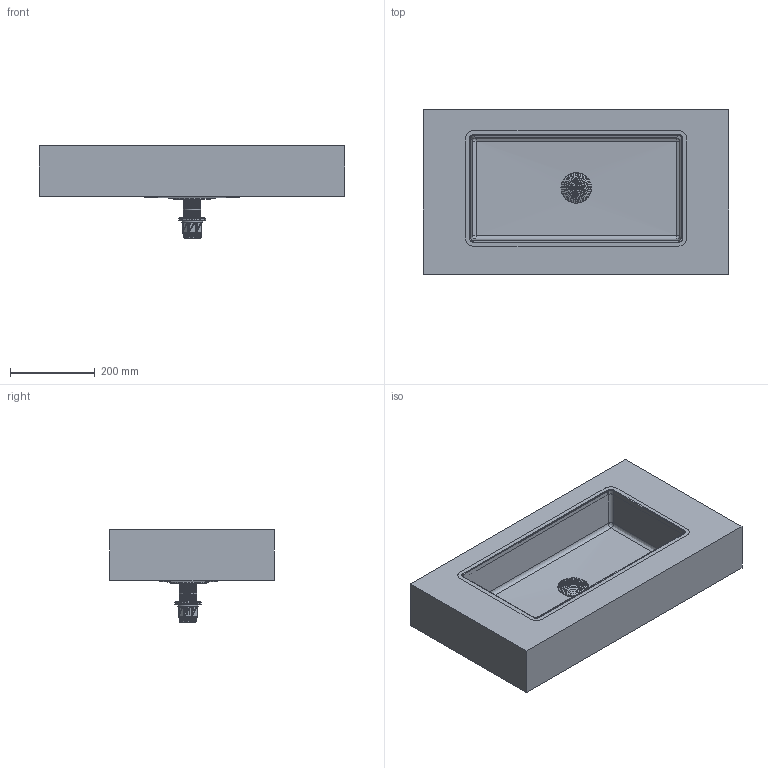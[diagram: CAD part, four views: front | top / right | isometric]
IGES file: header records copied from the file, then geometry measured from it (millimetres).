
Start section: Data from Parasolid IGES Translator 19.0.9, Copyright(c) 2006 Siemens PL M Software. All Rights Reserved.
Global section: file name: noorth-top-H 12 D 38,8 W 72_6547.igs; native system: By Siemens PLM Incorporated; preprocessor: XPlus GENERIC/IGES 19.0.9; author: Noname; organization: Noname; date: 20200603.090106; units: metre
Bounding box: 720 x 388 x 218.72 mm (x, y, z)
Volume: 7620051.4 mm3; surface area: 1314323.2 mm2
Topology: 2 solids, 2 shells, 11704 faces, 35093 edges, 35005 vertices
Faces by surface type: extrusion 11618, bspline 32, plane 29, cylinder 22, torus 2, cone 1
Full cylindrical faces by diameter (mm): 46 x1, 86 x1
